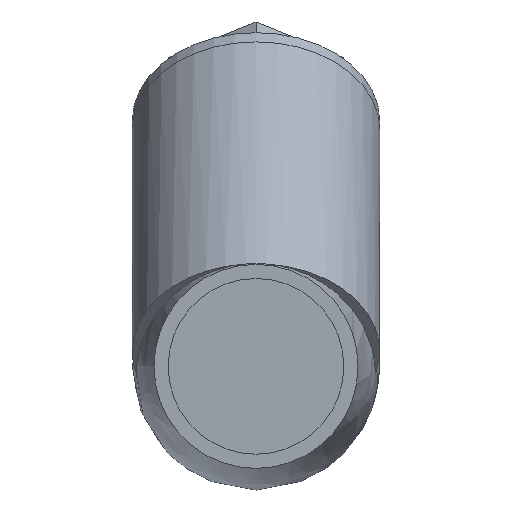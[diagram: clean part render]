
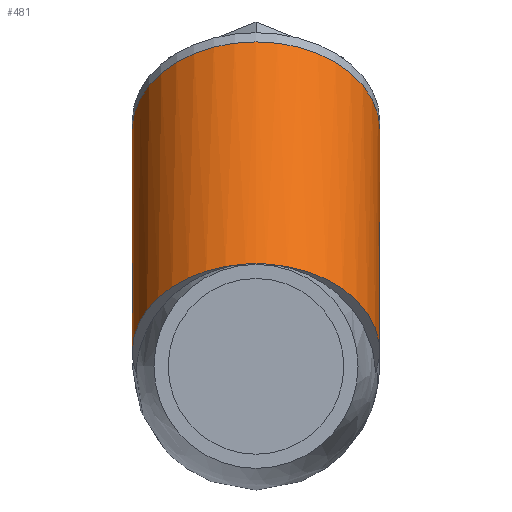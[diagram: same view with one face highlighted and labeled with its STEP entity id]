
A CAD part, left-side view. The second image highlights one B-rep face of the part: STEP entity #481.
In plain terms, the highlighted cylindrical face has radius 29.083 mm (diameter 58.166 mm), a full revolution.
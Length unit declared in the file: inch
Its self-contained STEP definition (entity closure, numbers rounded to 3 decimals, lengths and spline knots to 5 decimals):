
#394=CARTESIAN_POINT('',(1.73419,0.945,0.07346));
#395=DIRECTION('',(0.707,0.0,0.707));
#396=DIRECTION('',(0.0,1.0,0.0));
#397=AXIS2_PLACEMENT_3D('',#394,#395,#396);
#398=CYLINDRICAL_SURFACE('',#397,1.145);
#399=CARTESIAN_POINT('',(3.85551,2.09,2.19478));
#400=VERTEX_POINT('',#399);
#401=CARTESIAN_POINT('',(3.85551,0.945,2.19478));
#402=DIRECTION('',(-0.707,0.0,-0.707));
#403=DIRECTION('',(0.0,1.0,0.0));
#404=AXIS2_PLACEMENT_3D('',#401,#402,#403);
#405=CIRCLE('',#404,1.145);
#406=EDGE_CURVE('',#400,#400,#405,.T.);
#407=ORIENTED_EDGE('',*,*,#406,.T.);
#408=EDGE_LOOP('',(#407));
#409=FACE_OUTER_BOUND('',#408,.T.);
#410=CARTESIAN_POINT('',(1.99836,2.05564,-0.05609));
#411=VERTEX_POINT('',#410);
#412=CARTESIAN_POINT('',(1.99836,-0.16564,-0.05609));
#413=VERTEX_POINT('',#412);
#414=CARTESIAN_POINT('',(1.99836,2.05564,-0.05609));
#415=CARTESIAN_POINT('',(2.01006,2.05798,-0.03118));
#416=CARTESIAN_POINT('',(2.02406,2.05962,-0.00726));
#417=CARTESIAN_POINT('',(2.08151,2.06346,0.07376));
#418=CARTESIAN_POINT('',(2.13986,2.06323,0.13));
#419=CARTESIAN_POINT('',(2.35318,2.0521,0.2772));
#420=CARTESIAN_POINT('',(2.52797,2.03533,0.35922));
#421=CARTESIAN_POINT('',(2.7125,2.00388,0.43566));
#422=CARTESIAN_POINT('',(2.89803,1.97226,0.51251));
#423=CARTESIAN_POINT('',(3.09433,1.92556,0.58423));
#424=CARTESIAN_POINT('',(3.49236,1.78979,0.72529));
#425=CARTESIAN_POINT('',(3.68379,1.69869,0.79017));
#426=CARTESIAN_POINT('',(3.93408,1.52741,0.87497));
#427=CARTESIAN_POINT('',(4.02446,1.45173,0.90546));
#428=CARTESIAN_POINT('',(4.15387,1.29721,0.94913));
#429=CARTESIAN_POINT('',(4.20147,1.22244,0.9652));
#430=CARTESIAN_POINT('',(4.24831,1.09509,0.98103));
#431=CARTESIAN_POINT('',(4.25955,1.049,0.98483));
#432=CARTESIAN_POINT('',(4.26874,0.9615,0.98793));
#433=CARTESIAN_POINT('',(4.26852,0.92148,0.98786));
#434=CARTESIAN_POINT('',(4.258,0.83313,0.9843));
#435=CARTESIAN_POINT('',(4.24588,0.78612,0.9802));
#436=CARTESIAN_POINT('',(4.19636,0.65836,0.96348));
#437=CARTESIAN_POINT('',(4.14742,0.58333,0.94695));
#438=CARTESIAN_POINT('',(3.99545,0.40687,0.89566));
#439=CARTESIAN_POINT('',(3.8652,0.30463,0.85182));
#440=CARTESIAN_POINT('',(3.46319,0.07871,0.71486));
#441=CARTESIAN_POINT('',(3.18183,-0.0146,0.61842));
#442=CARTESIAN_POINT('',(2.69353,-0.12351,0.43122));
#443=CARTESIAN_POINT('',(2.48538,-0.14939,0.34343));
#444=CARTESIAN_POINT('',(2.2304,-0.16966,0.19702));
#445=CARTESIAN_POINT('',(2.16568,-0.17187,0.14823));
#446=CARTESIAN_POINT('',(2.06613,-0.17293,0.05535));
#447=CARTESIAN_POINT('',(2.026,-0.17117,0.00275));
#448=CARTESIAN_POINT('',(1.99836,-0.16564,-0.05609));
#449=B_SPLINE_CURVE_WITH_KNOTS('',3,(#414,#415,#416,#417,#418,#419,#420,#421,#422,#423,#424,#425,#426,#427,#428,#429,#430,#431,#432,#433,#434,#435,#436,#437,#438,#439,#440,#441,#442,#443,#444,#445,#446,#447,#448),.UNSPECIFIED.,.F.,.U.,(4,2,2,3,2,2,2,2,2,2,2,2,2,2,2,2,4),(-1.15297,-0.99696,-0.60658,0.0,0.60988,1.30709,1.7181,2.02436,2.18726,2.32258,2.48471,2.77725,3.25819,3.97537,4.565,4.91872,5.32396),.UNSPECIFIED.);
#450=EDGE_CURVE('',#411,#413,#449,.T.);
#451=ORIENTED_EDGE('',*,*,#450,.F.);
#452=CARTESIAN_POINT('',(0.99466,1.04018,0.94761));
#453=VERTEX_POINT('',#452);
#454=CARTESIAN_POINT('',(1.8015,0.945,0.14077));
#455=DIRECTION('',(0.707,0.0,0.707));
#456=DIRECTION('',(0.0,1.0,0.0));
#457=AXIS2_PLACEMENT_3D('',#454,#455,#456);
#458=CIRCLE('',#457,1.145);
#459=EDGE_CURVE('',#411,#453,#458,.T.);
#460=ORIENTED_EDGE('',*,*,#459,.T.);
#461=CARTESIAN_POINT('',(0.99466,0.84982,0.94761));
#462=VERTEX_POINT('',#461);
#463=CARTESIAN_POINT('',(0.99466,0.84982,0.94761));
#464=CARTESIAN_POINT('',(0.99407,0.8761,0.95011));
#465=CARTESIAN_POINT('',(0.99371,0.90251,0.95158));
#466=CARTESIAN_POINT('',(0.99347,0.96619,0.9526));
#467=CARTESIAN_POINT('',(0.99383,1.00331,0.95112));
#468=CARTESIAN_POINT('',(0.99466,1.04018,0.94761));
#469=B_SPLINE_CURVE_WITH_KNOTS('',3,(#463,#464,#465,#466,#467,#468),.UNSPECIFIED.,.F.,.U.,(4,2,4),(-0.99955,-0.9418,-0.86071),.UNSPECIFIED.);
#470=EDGE_CURVE('',#462,#453,#469,.T.);
#471=ORIENTED_EDGE('',*,*,#470,.F.);
#472=CARTESIAN_POINT('',(1.8015,0.945,0.14077));
#473=DIRECTION('',(0.707,0.0,0.707));
#474=DIRECTION('',(0.0,1.0,0.0));
#475=AXIS2_PLACEMENT_3D('',#472,#473,#474);
#476=CIRCLE('',#475,1.145);
#477=EDGE_CURVE('',#462,#413,#476,.T.);
#478=ORIENTED_EDGE('',*,*,#477,.T.);
#479=EDGE_LOOP('',(#451,#460,#471,#478));
#480=FACE_BOUND('',#479,.T.);
#481=ADVANCED_FACE('',(#409,#480),#398,.T.);
